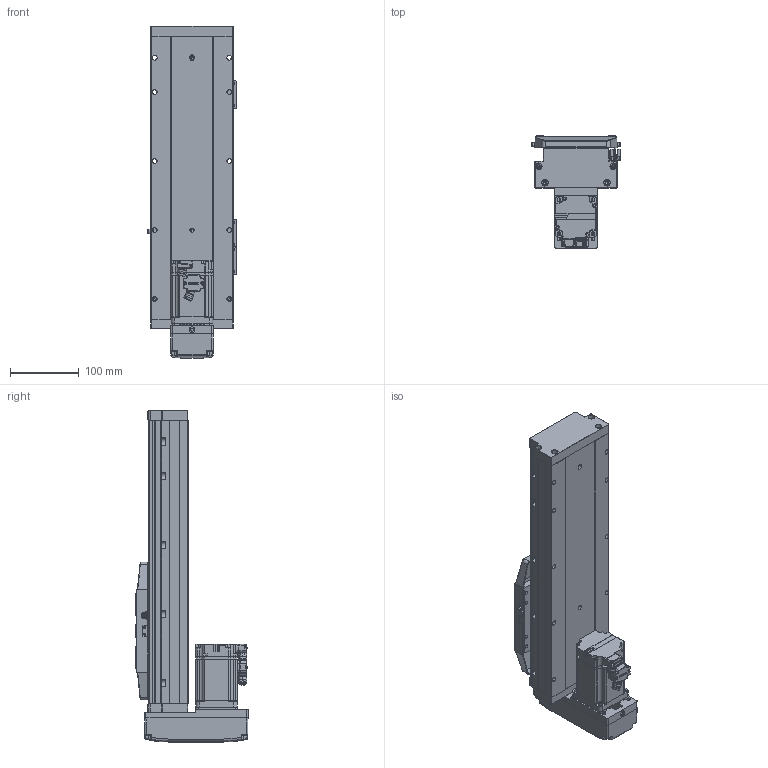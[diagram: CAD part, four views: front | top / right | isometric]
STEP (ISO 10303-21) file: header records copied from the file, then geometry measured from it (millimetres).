
FILE_DESCRIPTION (( 'STEP AP203' ), '1' );
FILE_NAME ('4.STEP', '2021-03-04T00:44:30', ( '' ), ( '' ), 'SwSTEP 2.0', 'SolidWorks 2016', '' );
FILE_SCHEMA (( 'CONFIG_CONTROL_DESIGN' ));
Length unit declared in the file: millimetre
Products named in the file (10): MS1H1-40B30CB-A331Z-S_ASM_1; CTH12-BM -04; CTH12-BM-HZ; CTH12-BM-05; CTH12-BM-菁釱; CTH12-BM-02; CTH12-BM-07; PM-Y45; 4; CTH12-BM-01
Assembly tree (14 placements, depth 2):
  4
    CTH12-BM-菁釱
    CTH12-BM-01
    CTH12-BM -04
    CTH12-BM-05  x2
    CTH12-BM-07  x3
    CTH12-BM-HZ
    PM-Y45  x3
    MS1H1-40B30CB-A331Z-S_ASM_1
    CTH12-BM-02
Bounding box: 129 x 162.5 x 481.5 mm (x, y, z)
Volume: 3010584.4 mm3; surface area: 466443.8 mm2
Topology: 25 solids, 51 shells, 3399 faces, 9119 edges, 5882 vertices
Faces by surface type: plane 1899, cylinder 973, bspline 323, cone 204
Entity records: 111602 total; most frequent: CARTESIAN_POINT 32337, ORIENTED_EDGE 16824, DIRECTION 15388, EDGE_CURVE 8428, VERTEX_POINT 5482, LINE 5476, VECTOR 5476, AXIS2_PLACEMENT_3D 4956
